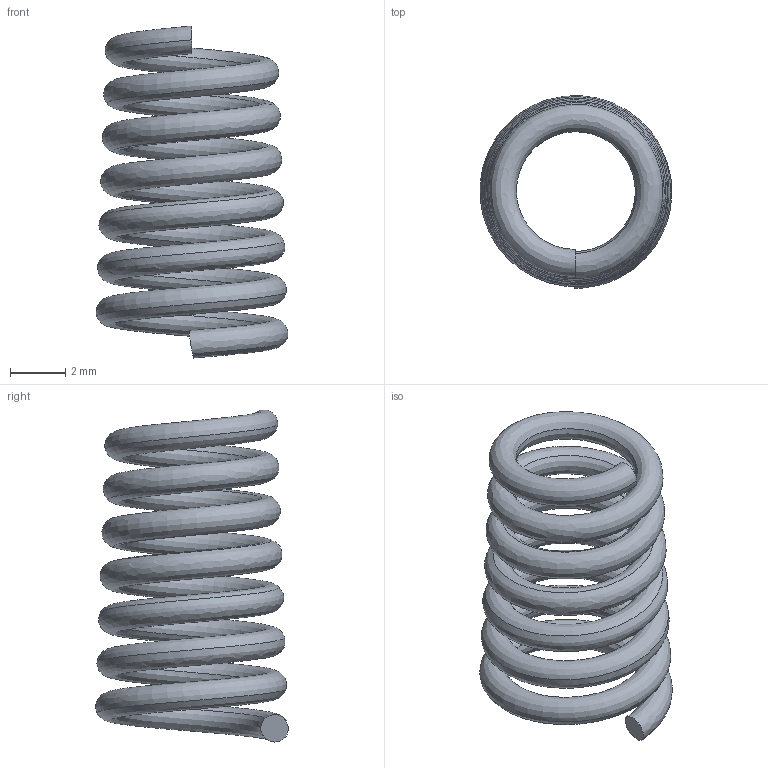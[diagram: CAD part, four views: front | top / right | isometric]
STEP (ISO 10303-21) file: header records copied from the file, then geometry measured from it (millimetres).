
FILE_DESCRIPTION(/* description */ (''),/* implementation_level */ '2;1');
FILE_NAME(/* name */ 'RESORT~1',/* time_stamp */ '2019-04-02T23:38:06-03:00',/* author */ (''),/* organization */ (''),/* preprocessor_version */ 'ST-DEVELOPER v16.5',/* originating_system */ '',/* authorisation */ '');
FILE_SCHEMA (('AUTOMOTIVE_DESIGN'));
Length unit declared in the file: millimetre
Products named in the file (1): Document
Bounding box: 6.93 x 6.96 x 11.99 mm (x, y, z)
Volume: 93.9 mm3; surface area: 390 mm2
Topology: 1 solids, 1 shells, 4 faces, 6 edges, 4 vertices
Faces by surface type: bspline 2, plane 2
Entity records: 2601 total; most frequent: CARTESIAN_POINT 2536, ORIENTED_EDGE 12, EDGE_CURVE 6, DIRECTION 6, ADVANCED_FACE 4, FACE_OUTER_BOUND 4, EDGE_LOOP 4, VERTEX_POINT 4
